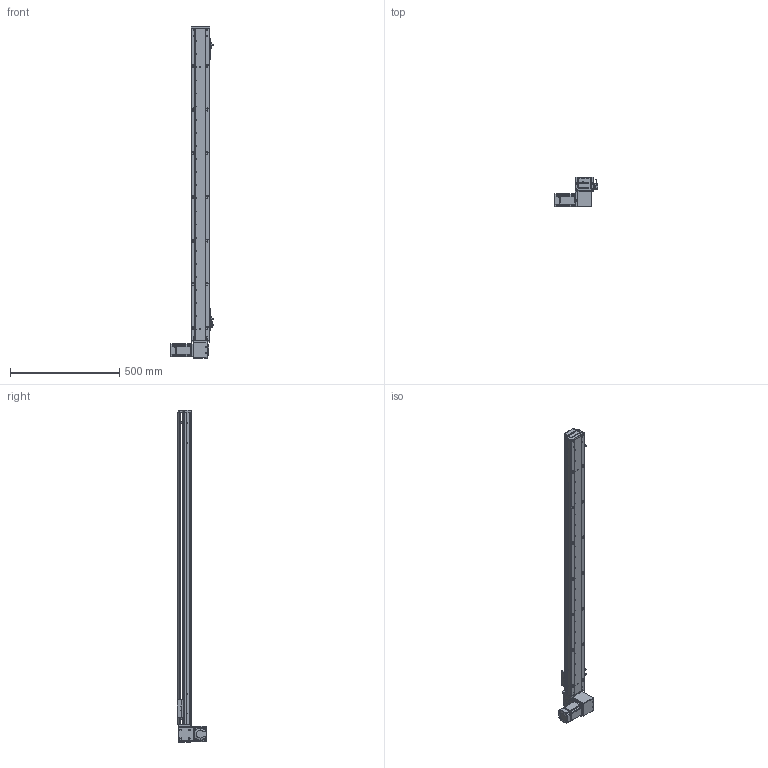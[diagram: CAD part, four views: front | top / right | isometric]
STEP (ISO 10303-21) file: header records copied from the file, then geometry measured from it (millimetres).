
FILE_DESCRIPTION (( 'STEP AP203' ), '1' );
FILE_NAME ('RY80-T-300-DL.SLDASM_1250.step', '2021-03-01T01:38:56', ( '盈信电脑' ), ( '东莞市道滘镇水果街19号' ), 'SwSTEP 2.0', 'SolidWorks 2012', '' );
FILE_SCHEMA (( 'CONFIG_CONTROL_DESIGN' ));
Length unit declared in the file: millimetre
Products named in the file (19): RY100-T粣創揤踡裔; RY80-T-300-DL.SLDASM_1250; 1; RY80-T肮祭謫狟殏俋欶; RY80-T-M4蹟翐3; RY80-T-上下折同步轮盖板; RY80-T翋肮祭謫裔啣; 滅袉蝶18-10; RY80-T萇儂假蚾啣; RY80-T肮祭湍揤輸2; RY80-T肮祭湍揤輸1; RY80俋离覜茼え; RY80-T-翋肮祭謫釱; RY80-T綴裔啣; RY80-T-300-DL倰第奻裔啣_1250; 672嫖萇羲壽假蚾釱; 覜茼ん672; RY80-T-300-DL倰第菁釱_1250; RY80-T肮祭謫臏賑輸
Assembly tree (24 placements, depth 2):
  RY80-T-300-DL.SLDASM_1250
    RY80-T-300-DL倰第菁釱_1250
    RY80-T肮祭謫臏賑輸
    RY80-T-300-DL倰第奻裔啣_1250
    RY80-T綴裔啣
    672嫖萇羲壽假蚾釱  x2
    覜茼ん672  x3
    RY80俋离覜茼え
    RY80-T-翋肮祭謫釱
    RY80-T肮祭湍揤輸1
    RY80-T肮祭湍揤輸2
    RY80-T萇儂假蚾啣
    RY80-T翋肮祭謫裔啣  x2
    滅袉蝶18-10  x2
    1
    RY80-T肮祭謫狟殏俋欶
    RY80-T-M4蹟翐3  x2
    RY80-T-上下折同步轮盖板
    RY100-T粣創揤踡裔
Bounding box: 198.7 x 134.5 x 1520 mm (x, y, z)
Volume: 2511953.9 mm3; surface area: 1067431 mm2
Topology: 24 solids, 24 shells, 2504 faces, 6902 edges, 4481 vertices
Faces by surface type: plane 1341, cylinder 958, cone 149, bspline 56
Entity records: 78689 total; most frequent: CARTESIAN_POINT 19002, ORIENTED_EDGE 12248, DIRECTION 11542, EDGE_CURVE 6124, VERTEX_POINT 4022, AXIS2_PLACEMENT_3D 3886, VECTOR 3770, LINE 3770
